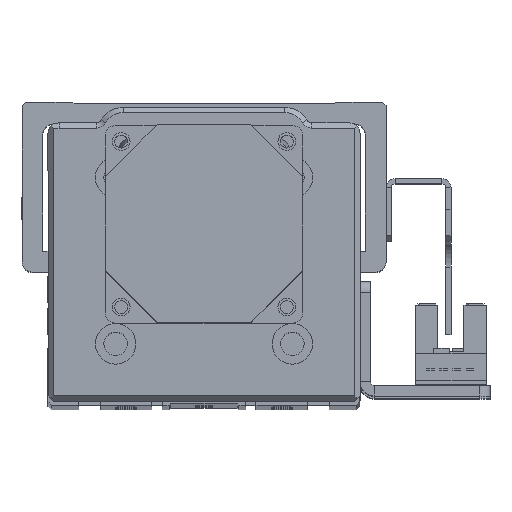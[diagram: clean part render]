
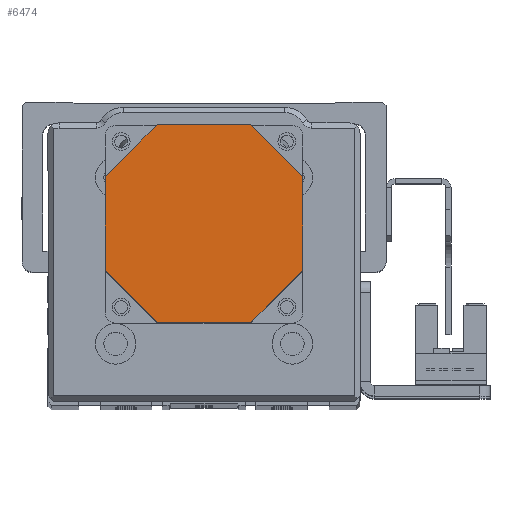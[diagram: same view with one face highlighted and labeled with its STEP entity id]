
A CAD part, top view. The second image highlights one B-rep face of the part: STEP entity #6474.
In plain terms, the highlighted planar face has unit normal (0, 0, 1) as drawn and (0, 0, -1) by its records, which use the part's own axes.
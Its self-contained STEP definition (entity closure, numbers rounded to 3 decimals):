
#3796 = VERTEX_POINT ( 'NONE', #13875 ) ;
#3820 = VERTEX_POINT ( 'NONE', #14899 ) ;
#3836 = VERTEX_POINT ( 'NONE', #14898 ) ;
#3856 = VERTEX_POINT ( 'NONE', #14890 ) ;
#3858 = VERTEX_POINT ( 'NONE', #14881 ) ;
#3859 = VERTEX_POINT ( 'NONE', #14885 ) ;
#3872 = VERTEX_POINT ( 'NONE', #14978 ) ;
#3874 = VERTEX_POINT ( 'NONE', #14982 ) ;
#4469 = EDGE_LOOP ( 'NONE', ( #5436, #5095, #5109, #5108, #5117, #5122, #5142, #5097 ) ) ;
#5095 = ORIENTED_EDGE ( 'NONE', *, *, #26238, .T. ) ;
#5097 = ORIENTED_EDGE ( 'NONE', *, *, #26257, .T. ) ;
#5108 = ORIENTED_EDGE ( 'NONE', *, *, #26297, .T. ) ;
#5109 = ORIENTED_EDGE ( 'NONE', *, *, #26345, .T. ) ;
#5117 = ORIENTED_EDGE ( 'NONE', *, *, #26280, .T. ) ;
#5122 = ORIENTED_EDGE ( 'NONE', *, *, #26348, .T. ) ;
#5142 = ORIENTED_EDGE ( 'NONE', *, *, #26285, .T. ) ;
#5436 = ORIENTED_EDGE ( 'NONE', *, *, #26346, .T. ) ;
#6474 = ADVANCED_FACE ( 'NONE', ( #10824 ), #15263, .F. ) ;
#10824 = FACE_OUTER_BOUND ( 'NONE', #4469, .T. ) ;
#12209 = AXIS2_PLACEMENT_3D ( 'NONE', #15268, #15262, #15284 ) ;
#13875 = CARTESIAN_POINT ( 'NONE',  ( -9., 19., -84. ) ) ;
#14881 = CARTESIAN_POINT ( 'NONE',  ( 19., 9., -84. ) ) ;
#14885 = CARTESIAN_POINT ( 'NONE',  ( 19., -9., -84. ) ) ;
#14890 = CARTESIAN_POINT ( 'NONE',  ( 9., 19., -84. ) ) ;
#14898 = CARTESIAN_POINT ( 'NONE',  ( -19., -9., -84. ) ) ;
#14899 = CARTESIAN_POINT ( 'NONE',  ( -19., 9., -84. ) ) ;
#14978 = CARTESIAN_POINT ( 'NONE',  ( 9., -19., -84. ) ) ;
#14982 = CARTESIAN_POINT ( 'NONE',  ( -9., -19., -84. ) ) ;
#15262 = DIRECTION ( 'NONE',  ( 0., 0., 1. ) ) ;
#15263 = PLANE ( 'NONE',  #12209 ) ;
#15268 = CARTESIAN_POINT ( 'NONE',  ( 0., 0., -84. ) ) ;
#15284 = DIRECTION ( 'NONE',  ( 1., 0., 0. ) ) ;
#20687 = VECTOR ( 'NONE', #22994, 1000. ) ;
#20688 = LINE ( 'NONE', #22937, #20692 ) ;
#20692 = VECTOR ( 'NONE', #22905, 1000. ) ;
#20727 = LINE ( 'NONE', #22978, #20687 ) ;
#22905 = DIRECTION ( 'NONE',  ( 0., 1., 0. ) ) ;
#22937 = CARTESIAN_POINT ( 'NONE',  ( -19., 9., -84. ) ) ;
#22978 = CARTESIAN_POINT ( 'NONE',  ( 9., -19., -84. ) ) ;
#22994 = DIRECTION ( 'NONE',  ( -1., 0., 0. ) ) ;
#23071 = DIRECTION ( 'NONE',  ( 0.707, -0.707, 0. ) ) ;
#23086 = CARTESIAN_POINT ( 'NONE',  ( 19., 9., -84. ) ) ;
#23092 = CARTESIAN_POINT ( 'NONE',  ( 9., 19., -84. ) ) ;
#23093 = CARTESIAN_POINT ( 'NONE',  ( 19., -9., -84. ) ) ;
#23112 = DIRECTION ( 'NONE',  ( 1., 0., 0. ) ) ;
#23128 = DIRECTION ( 'NONE',  ( -0.707, -0.707, 0. ) ) ;
#23324 = DIRECTION ( 'NONE',  ( 0., -1., 0. ) ) ;
#23328 = CARTESIAN_POINT ( 'NONE',  ( 19., 9., -84. ) ) ;
#23333 = CARTESIAN_POINT ( 'NONE',  ( -9., -19., -84. ) ) ;
#23357 = CARTESIAN_POINT ( 'NONE',  ( -9., 19., -84. ) ) ;
#23383 = DIRECTION ( 'NONE',  ( -0.707, 0.707, 0. ) ) ;
#23384 = DIRECTION ( 'NONE',  ( 0.707, 0.707, 0. ) ) ;
#24002 = LINE ( 'NONE', #23093, #24031 ) ;
#24014 = LINE ( 'NONE', #23086, #24023 ) ;
#24023 = VECTOR ( 'NONE', #23071, 1000. ) ;
#24025 = LINE ( 'NONE', #23092, #24044 ) ;
#24031 = VECTOR ( 'NONE', #23128, 1000. ) ;
#24044 = VECTOR ( 'NONE', #23112, 1000. ) ;
#24054 = LINE ( 'NONE', #23357, #24056 ) ;
#24055 = LINE ( 'NONE', #23333, #24059 ) ;
#24056 = VECTOR ( 'NONE', #23384, 1000. ) ;
#24059 = VECTOR ( 'NONE', #23383, 1000. ) ;
#24151 = VECTOR ( 'NONE', #23324, 1000. ) ;
#24171 = LINE ( 'NONE', #23328, #24151 ) ;
#26238 = EDGE_CURVE ( 'NONE', #3836, #3820, #20688, .T. ) ;
#26257 = EDGE_CURVE ( 'NONE', #3872, #3874, #20727, .T. ) ;
#26280 = EDGE_CURVE ( 'NONE', #3856, #3858, #24014, .T. ) ;
#26285 = EDGE_CURVE ( 'NONE', #3859, #3872, #24002, .T. ) ;
#26297 = EDGE_CURVE ( 'NONE', #3796, #3856, #24025, .T. ) ;
#26345 = EDGE_CURVE ( 'NONE', #3820, #3796, #24054, .T. ) ;
#26346 = EDGE_CURVE ( 'NONE', #3874, #3836, #24055, .T. ) ;
#26348 = EDGE_CURVE ( 'NONE', #3858, #3859, #24171, .T. ) ;
